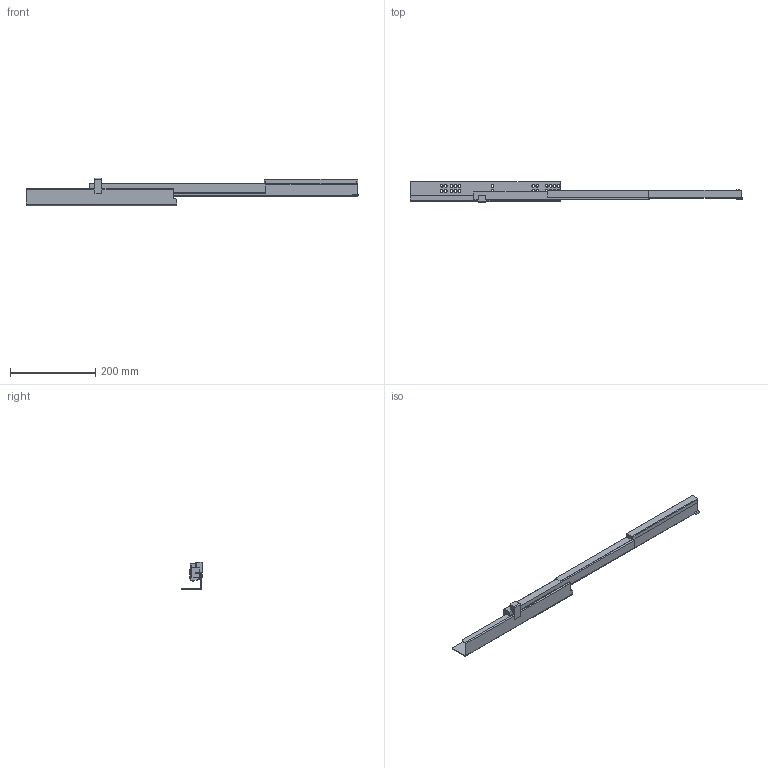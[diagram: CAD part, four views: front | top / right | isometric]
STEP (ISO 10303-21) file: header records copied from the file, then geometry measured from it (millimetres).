
FILE_DESCRIPTION (( 'STEP AP203' ), '1' );
FILE_NAME ('HD10500H-R(´ò¿ª).STEP', '2021-04-02T00:39:02', ( 'Users' ), ( 'Microsoft' ), 'SwSTEP 2.0', 'SolidWorks 2018', '' );
FILE_SCHEMA (( 'CONFIG_CONTROL_DESIGN' ));
Length unit declared in the file: millimetre
Products named in the file (1): HD10500H-R(湖羲)
Bounding box: 781 x 47.8 x 64.23 mm (x, y, z)
Volume: 437348.8 mm3; surface area: 130189.1 mm2
Topology: 1 solids, 1 shells, 237 faces, 633 edges, 398 vertices
Faces by surface type: cylinder 104, plane 73, cone 48, torus 12
Entity records: 7594 total; most frequent: DIRECTION 1394, CARTESIAN_POINT 1272, ORIENTED_EDGE 1266, EDGE_CURVE 633, AXIS2_PLACEMENT_3D 524, VERTEX_POINT 398, LINE 346, VECTOR 346
